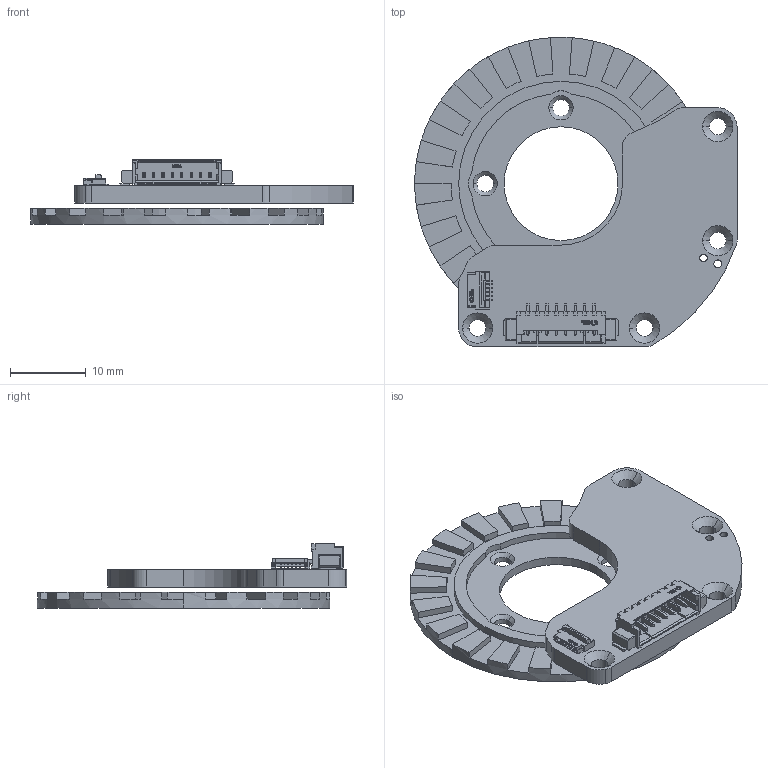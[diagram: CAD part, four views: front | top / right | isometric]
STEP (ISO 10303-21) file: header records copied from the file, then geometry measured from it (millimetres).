
FILE_DESCRIPTION((''),'2;1');
FILE_NAME('PCB_ASM','2024-12-02T',('Cujo'),(''),'PRO/ENGINEER BY PARAMETRIC TECHNOLOGY CORPORATION, 2017170','PRO/ENGINEER BY PARAMETRIC TECHNOLOGY CORPORATION, 2017170','');
FILE_SCHEMA(('CONFIG_CONTROL_DESIGN'));
Products named in the file (70): BOARD; MANIFOLD_SOLID_BREP_72793; MANIFOLD_SOLID_BREP_72297; MANIFOLD_SOLID_BREP_71765; MANIFOLD_SOLID_BREP_71351; MANIFOLD_SOLID_BREP_70808; MANIFOLD_SOLID_BREP_69983; MANIFOLD_SOLID_BREP_69151; MANIFOLD_SOLID_BREP_68737; MANIFOLD_SOLID_BREP_68241; MANIFOLD_SOLID_BREP_67709; MANIFOLD_SOLID_BREP_67295; MANIFOLD_SOLID_BREP_66743; MANIFOLD_SOLID_BREP_66527; MANIFOLD_SOLID_BREP_48799; MANIFOLD_SOLID_BREP_47766; MANIFOLD_SOLID_BREP_46733; ASM0004_ASM; CN1_ASM; MANIFOLD_SOLID_BREP_191683; MANIFOLD_SOLID_BREP_191187; MANIFOLD_SOLID_BREP_190655; MANIFOLD_SOLID_BREP_190241; MANIFOLD_SOLID_BREP_189698; MANIFOLD_SOLID_BREP_188873; MANIFOLD_SOLID_BREP_188041; MANIFOLD_SOLID_BREP_187627; MANIFOLD_SOLID_BREP_187131; MANIFOLD_SOLID_BREP_186599; MANIFOLD_SOLID_BREP_186185; MANIFOLD_SOLID_BREP_185633; MANIFOLD_SOLID_BREP_185417; MANIFOLD_SOLID_BREP_185265; MANIFOLD_SOLID_BREP_185113; MANIFOLD_SOLID_BREP_184961; MANIFOLD_SOLID_BREP_184809; MANIFOLD_SOLID_BREP_184657; MANIFOLD_SOLID_BREP_184472; MANIFOLD_SOLID_BREP_184287; MANIFOLD_SOLID_BREP_184102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
Assembly tree (69 placements, depth 4):
  PCB_ASM
    BOARD
    CN1_ASM
      ASM0004_ASM
        MANIFOLD_SOLID_BREP_72793
        MANIFOLD_SOLID_BREP_72297
        MANIFOLD_SOLID_BREP_71765
        MANIFOLD_SOLID_BREP_71351
        MANIFOLD_SOLID_BREP_70808
        MANIFOLD_SOLID_BREP_69983
        MANIFOLD_SOLID_BREP_69151
        MANIFOLD_SOLID_BREP_68737
        MANIFOLD_SOLID_BREP_68241
        MANIFOLD_SOLID_BREP_67709
        MANIFOLD_SOLID_BREP_67295
        MANIFOLD_SOLID_BREP_66743
        MANIFOLD_SOLID_BREP_66527
        MANIFOLD_SOLID_BREP_48799
        MANIFOLD_SOLID_BREP_47766
        MANIFOLD_SOLID_BREP_46733
    FPC1_ASM
      ASM0009_ASM
        MANIFOLD_SOLID_BREP_191683
        MANIFOLD_SOLID_BREP_191187
        MANIFOLD_SOLID_BREP_190655
        MANIFOLD_SOLID_BREP_190241
        MANIFOLD_SOLID_BREP_189698
        MANIFOLD_SOLID_BREP_188873
        MANIFOLD_SOLID_BREP_188041
        MANIFOLD_SOLID_BREP_187627
        MANIFOLD_SOLID_BREP_187131
        MANIFOLD_SOLID_BREP_186599
        MANIFOLD_SOLID_BREP_186185
        MANIFOLD_SOLID_BREP_185633
        MANIFOLD_SOLID_BREP_185417
        MANIFOLD_SOLID_BREP_185265
        MANIFOLD_SOLID_BREP_185113
        MANIFOLD_SOLID_BREP_184961
        MANIFOLD_SOLID_BREP_184809
        MANIFOLD_SOLID_BREP_184657
        MANIFOLD_SOLID_BREP_184472
        MANIFOLD_SOLID_BREP_184287
        MANIFOLD_SOLID_BREP_184102
        MANIFOLD_SOLID_BREP_183917
        MANIFOLD_SOLID_BREP_183732
        MANIFOLD_SOLID_BREP_183582
        MANIFOLD_SOLID_BREP_183432
        MANIFOLD_SOLID_BREP_183282
        MANIFOLD_SOLID_BREP_183132
        MANIFOLD_SOLID_BREP_182982
        MANIFOLD_SOLID_BREP_182826
        MANIFOLD_SOLID_BREP_182670
        MANIFOLD_SOLID_BREP_182514
        MANIFOLD_SOLID_BREP_182358
        MANIFOLD_SOLID_BREP_182202
        MANIFOLD_SOLID_BREP_182052
        MANIFOLD_SOLID_BREP_181902
        MANIFOLD_SOLID_BREP_181752
        MANIFOLD_SOLID_BREP_181602
        MANIFOLD_SOLID_BREP_181452
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Bounding box: 42.55 x 40.8 x 8.5 mm (x, y, z)
Volume: 3153.6 mm3; surface area: 4776.4 mm2
Topology: 65 solids, 65 shells, 1578 faces, 4144 edges, 2729 vertices
Faces by surface type: plane 1076, extrusion 250, cylinder 230, cone 16, bspline 4, sphere 2
Entity records: 71784 total; most frequent: CARTESIAN_POINT 20106, ORIENTED_EDGE 8284, DIRECTION 7095, EDGE_CURVE 4142, VECTOR 3411, LINE 3161, VERTEX_POINT 2729, PRESENTATION_STYLE_ASSIGNMENT 2122
